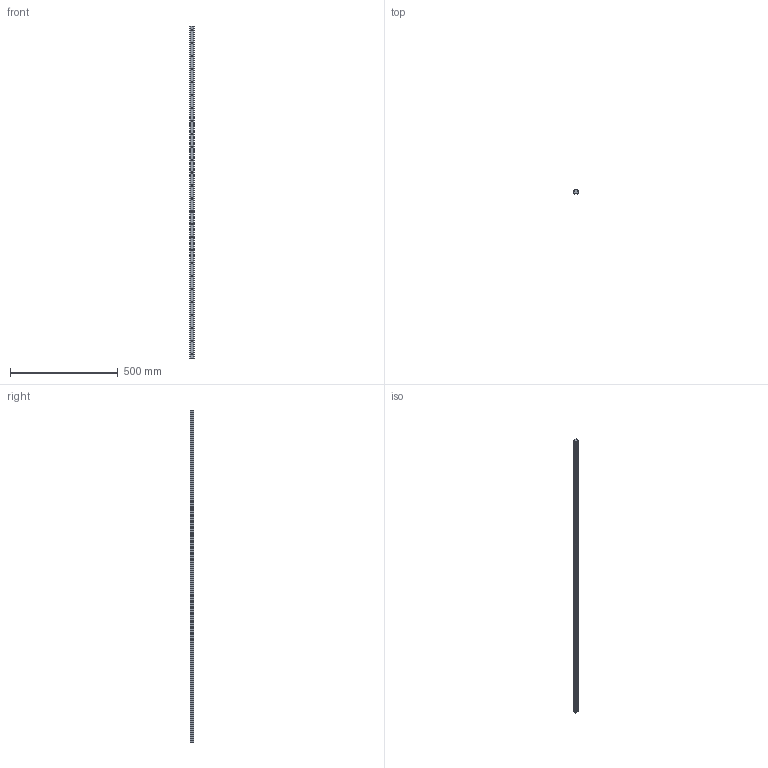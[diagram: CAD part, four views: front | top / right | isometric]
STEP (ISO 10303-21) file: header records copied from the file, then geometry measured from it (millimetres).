
FILE_DESCRIPTION (( 'STEP AP203' ), '1' );
FILE_NAME ('L1016.BL20-1540.step', '2019-06-12T11:49:46', ( '' ), ( '' ), 'SwSTEP 2.0', 'SolidWorks 2017', '' );
FILE_SCHEMA (( 'CONFIG_CONTROL_DESIGN' ));
Length unit declared in the file: millimetre
Products named in the file (1): L1016.BL20-1540
Bounding box: 20 x 16.3 x 1540 mm (x, y, z)
Volume: 427950.9 mm3; surface area: 124200.6 mm2
Topology: 1 solids, 1 shells, 156 faces, 384 edges, 256 vertices
Faces by surface type: cylinder 108, plane 48
Entity records: 4905 total; most frequent: DIRECTION 914, CARTESIAN_POINT 797, ORIENTED_EDGE 768, EDGE_CURVE 384, AXIS2_PLACEMENT_3D 373, VERTEX_POINT 256, EDGE_LOOP 234, CIRCLE 216
